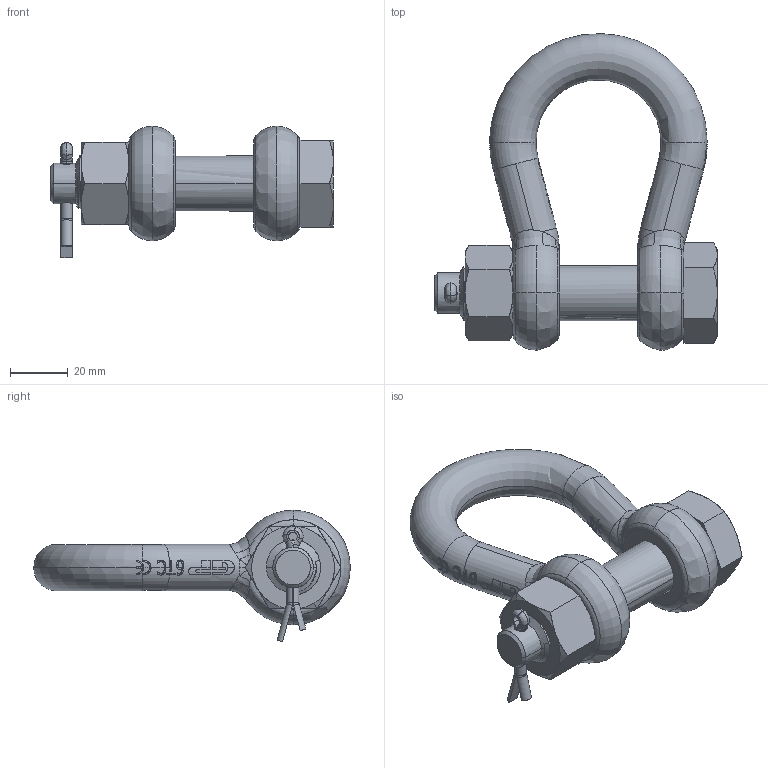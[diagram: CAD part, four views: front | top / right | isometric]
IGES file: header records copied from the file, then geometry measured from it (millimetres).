
Start section: START RECORD GO HERE.
Global section: file name: 3,25.igs; native system: IBM CATIA IGES - CATIA Vers                 ; preprocessor: Solidworks 2009            ; author: v.b.; organization: P4; date: 20090807.082547; units: millimetre
Bounding box: 97.5 x 109.24 x 45.34 mm (x, y, z)
Surface area: 29304.4 mm2 (no closed solid volume)
Topology: 0 solids, 0 shells, 766 faces, 4926 edges, 4918 vertices
Faces by surface type: bspline 328, plane 237, revolution 201
